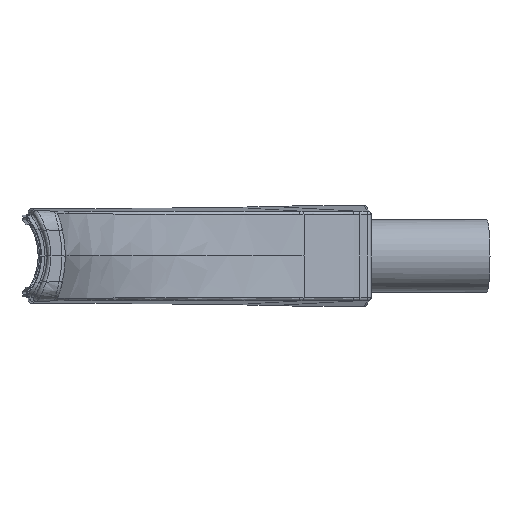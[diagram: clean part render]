
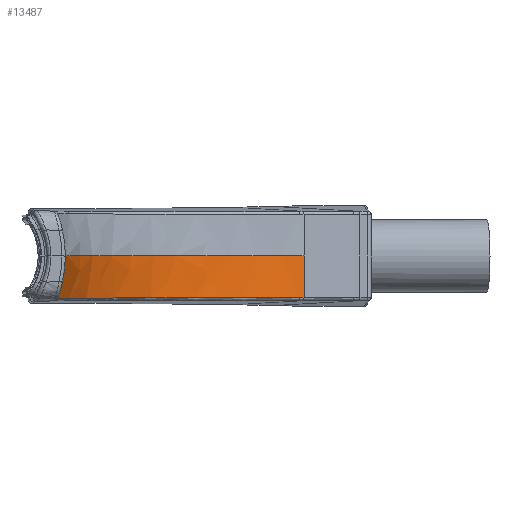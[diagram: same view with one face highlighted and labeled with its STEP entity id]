
A CAD part, front view. The second image highlights one B-rep face of the part: STEP entity #13487.
In plain terms, the highlighted free-form (B-spline) face has degree [3, 3] with [4, 7] control points.
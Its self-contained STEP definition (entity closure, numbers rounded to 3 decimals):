
#1005=CARTESIAN_POINT('',(68.975,753.824,0.));
#1006=CARTESIAN_POINT('',(68.975,753.824,-3.989));
#1007=CARTESIAN_POINT('',(68.498,753.852,-11.97));
#1008=CARTESIAN_POINT('',(66.351,753.846,-23.791));
#1009=CARTESIAN_POINT('',(63.991,753.805,-31.432));
#1010=CARTESIAN_POINT('',(62.587,753.793,-35.168));
#3256=CARTESIAN_POINT('',(68.975,753.824,0.));
#3257=CARTESIAN_POINT('',(68.826,783.39,
0.));
#3258=CARTESIAN_POINT('',(78.327,842.565,0.));
#3259=CARTESIAN_POINT('',(120.456,921.987,0.));
#3260=CARTESIAN_POINT('',(185.957,983.569,0.));
#3261=CARTESIAN_POINT('',(240.532,1008.339,
0.));
#3262=CARTESIAN_POINT('',(269.091,1015.991,
0.));
#3264=DIRECTION('',(0.,0.,-1.));
#3265=VECTOR('',#3264,34.26);
#3266=CARTESIAN_POINT('',(269.091,1015.991,
0.));
#3267=LINE('63230',#3266,#3265);
#3268=CARTESIAN_POINT('',(269.091,1015.991,-34.26));
#3269=CARTESIAN_POINT('',(267.892,1015.67,-34.26));
#3270=CARTESIAN_POINT('',(266.695,1015.341,-34.255));
#3271=CARTESIAN_POINT('',(265.499,1015.004,-34.255));
#3273=CARTESIAN_POINT('',(265.499,1015.004,-34.255));
#3274=CARTESIAN_POINT('',(262.12,1014.051,-34.252));
#3275=CARTESIAN_POINT('',(255.139,1011.948,-34.246));
#3276=CARTESIAN_POINT('',(244.154,1008.168,-34.245));
#3277=CARTESIAN_POINT('',(232.364,1003.556,-34.25));
#3278=CARTESIAN_POINT('',(219.653,997.907,-34.266));
#3279=CARTESIAN_POINT('',(205.905,990.954,-34.294));
#3280=CARTESIAN_POINT('',(191.066,982.383,-34.338));
#3281=CARTESIAN_POINT('',(175.155,971.82,-34.405));
#3282=CARTESIAN_POINT('',(158.278,958.828,-34.496));
#3283=CARTESIAN_POINT('',(140.695,942.933,-34.61));
#3284=CARTESIAN_POINT('',(122.705,923.481,-34.744));
#3285=CARTESIAN_POINT('',(104.76,899.549,-34.89));
#3286=CARTESIAN_POINT('',(87.97,870.418,-35.026));
#3287=CARTESIAN_POINT('',(73.627,835.321,-35.126));
#3288=CARTESIAN_POINT('',(64.114,793.234,-35.165));
#3289=CARTESIAN_POINT('',(62.555,767.313,-35.165));
#3290=CARTESIAN_POINT('',(62.585,754.527,-35.168));
#3292=CARTESIAN_POINT('',(62.585,754.527,-35.168));
#3293=CARTESIAN_POINT('',(62.585,754.282,-35.168));
#3294=CARTESIAN_POINT('',(62.586,754.038,-35.168));
#3295=CARTESIAN_POINT('',(62.587,753.793,-35.168));
#6398=VERTEX_POINT('',#3256);
#6399=VERTEX_POINT('',#3262);
#6601=CARTESIAN_POINT('',(62.587,753.793,-35.168));
#6602=VERTEX_POINT('',#6601);
#6604=VERTEX_POINT('',#3292);
#6606=VERTEX_POINT('',#3273);
#6608=VERTEX_POINT('',#3268);
#13449=CARTESIAN_POINT('',(62.437,745.676,
-35.977));
#13450=CARTESIAN_POINT('',(61.201,782.388,
-35.979));
#13451=CARTESIAN_POINT('',(72.598,848.025,
-35.978));
#13452=CARTESIAN_POINT('',(120.023,927.4,
-35.963));
#13453=CARTESIAN_POINT('',(189.121,986.638,
-35.942));
#13454=CARTESIAN_POINT('',(245.519,1010.366,
-35.931));
#13455=CARTESIAN_POINT('',(275.804,1017.703,
-35.927));
#13456=CARTESIAN_POINT('',(66.964,746.047,
-24.209));
#13457=CARTESIAN_POINT('',(65.792,781.132,
-24.236));
#13458=CARTESIAN_POINT('',(76.46,845.266,
-24.227));
#13459=CARTESIAN_POINT('',(121.579,925.248,
-24.038));
#13460=CARTESIAN_POINT('',(189.118,986.172,
-23.796));
#13461=CARTESIAN_POINT('',(245.461,1010.39,
-23.659));
#13462=CARTESIAN_POINT('',(275.818,1017.702,
-23.609));
#13463=CARTESIAN_POINT('',(69.239,746.408,
-11.595));
#13464=CARTESIAN_POINT('',(68.155,779.85,
-11.564));
#13465=CARTESIAN_POINT('',(78.043,842.676,
-11.528));
#13466=CARTESIAN_POINT('',(121.738,923.404,
-11.45));
#13467=CARTESIAN_POINT('',(188.638,985.685,
-11.377));
#13468=CARTESIAN_POINT('',(245.253,1010.365,
-11.333));
#13469=CARTESIAN_POINT('',(275.875,1017.714,
-11.308));
#13470=CARTESIAN_POINT('',(69.1,746.758,1.019));
#13471=CARTESIAN_POINT('',(68.096,778.541,1.016));
#13472=CARTESIAN_POINT('',(77.136,840.251,1.013));
#13473=CARTESIAN_POINT('',(120.347,921.862,1.006));
#13474=CARTESIAN_POINT('',(187.623,985.17,
1.));
#13475=CARTESIAN_POINT('',(244.886,1010.288,
0.996));
#13476=CARTESIAN_POINT('',(275.977,1017.738,
0.994));
#13477=B_SPLINE_SURFACE_WITH_KNOTS('476',3,3,((#13449,#13450,#13451,#13452,
#13453,#13454,#13455),(#13456,#13457,#13458,#13459,#13460,#13461,#13462),
(#13463,#13464,#13465,#13466,#13467,#13468,#13469),(#13470,#13471,#13472,#13473,
#13474,#13475,#13476)),.UNSPECIFIED.,.F.,.F.,.F.,(4,4),(4,1,1,1,4),(
0.029,1.027),(-0.02,0.25,0.5,0.75,1.02),
.UNSPECIFIED.);
#13479=ORIENTED_EDGE('2568',*,*,#13478,.T.);
#13480=ORIENTED_EDGE('63230',*,*,#13378,.T.);
#13481=ORIENTED_EDGE('60166',*,*,#9099,.T.);
#13482=ORIENTED_EDGE('60164',*,*,#9190,.T.);
#13483=ORIENTED_EDGE('60162',*,*,#9216,.T.);
#13484=ORIENTED_EDGE('63228',*,*,#9247,.F.);
#13485=EDGE_LOOP('476',(#13479,#13480,#13481,#13482,#13483,#13484));
#13486=FACE_OUTER_BOUND('476',#13485,.F.);
#13487=ADVANCED_FACE('476',(#13486),#13477,.F.);
#1011=B_SPLINE_CURVE_WITH_KNOTS('63228',3,(#1005,#1006,#1007,#1008,#1009,#1010),
.UNSPECIFIED.,.F.,.F.,(4,1,1,4),(0.,0.333,0.667,1.),
.UNSPECIFIED.);
#3263=B_SPLINE_CURVE_WITH_KNOTS('2568',3,(#3256,#3257,#3258,#3259,#3260,#3261,
#3262),.UNSPECIFIED.,.F.,.F.,(4,1,1,1,4),(0.,0.25,0.5,0.75,1.),
.UNSPECIFIED.);
#3272=B_SPLINE_CURVE_WITH_KNOTS('60166',3,(#3268,#3269,#3270,#3271),
.UNSPECIFIED.,.F.,.F.,(4,4),(0.,1.),.UNSPECIFIED.);
#3291=B_SPLINE_CURVE_WITH_KNOTS('60164',3,(#3273,#3274,#3275,#3276,#3277,#3278,
#3279,#3280,#3281,#3282,#3283,#3284,#3285,#3286,#3287,#3288,#3289,#3290),
.UNSPECIFIED.,.F.,.F.,(4,1,1,1,1,1,1,1,1,1,1,1,1,1,1,4),(0.,0.067,
0.133,0.2,0.267,0.333,0.4,
0.467,0.533,0.6,0.667,0.733,
0.8,0.867,0.933,1.),.UNSPECIFIED.);
#3296=B_SPLINE_CURVE_WITH_KNOTS('60162',3,(#3292,#3293,#3294,#3295),
.UNSPECIFIED.,.F.,.F.,(4,4),(0.,1.),.UNSPECIFIED.);
#9099=EDGE_CURVE('60166',#6608,#6606,#3272,.T.);
#9190=EDGE_CURVE('60164',#6606,#6604,#3291,.T.);
#9216=EDGE_CURVE('60162',#6604,#6602,#3296,.T.);
#9247=EDGE_CURVE('63228',#6398,#6602,#1011,.T.);
#13378=EDGE_CURVE('63230',#6399,#6608,#3267,.T.);
#13478=EDGE_CURVE('2568',#6398,#6399,#3263,.T.);
